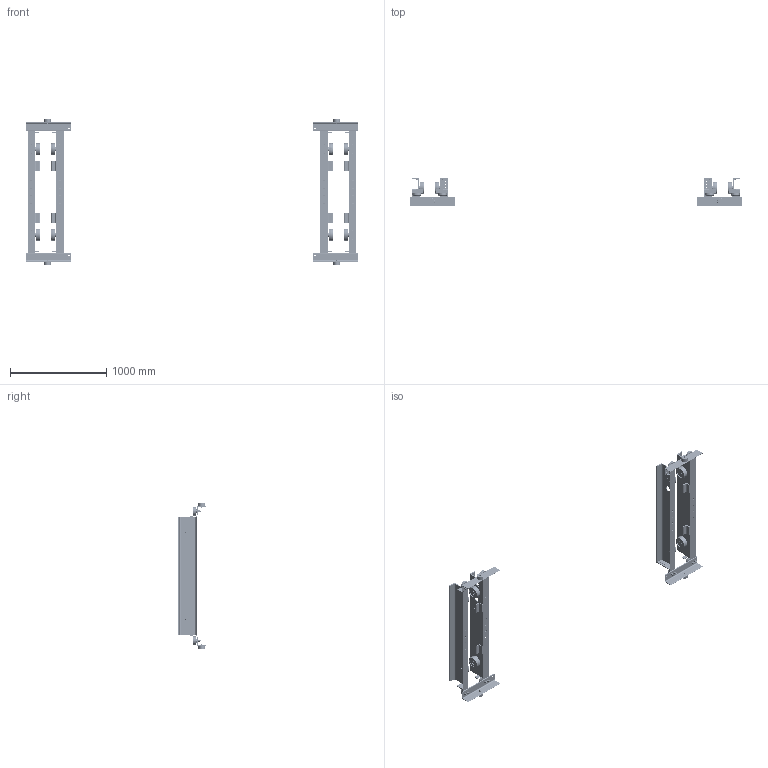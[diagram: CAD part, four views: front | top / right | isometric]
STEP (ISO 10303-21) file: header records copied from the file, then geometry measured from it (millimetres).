
FILE_DESCRIPTION (( 'STEP AP214' ), '1' );
FILE_NAME ('UP-3-0335.STEP', '2026-08-12T13:13:59', ( '' ), ( '' ), 'SwSTEP 2.0', 'SolidWorks 2026', '' );
FILE_SCHEMA (( 'AUTOMOTIVE_DESIGN' ));
Length unit declared in the file: inch
Products named in the file (42): 9012515_9012515; MC08-018.7_48; 9093433_9093433; 6232803_6232803; 9093101_9093101; 6233203; 62333XXU_6233302U; 9000507; 62329XXU_6232904U; 9000605; UP-3-0335; 6234702X_6.56" FLANGE; 9012514_9012514; 9047125_B27.7M - 3AM1-23; 9047135_9047135; 6257004; N6QO310E9108_N6QO3101108 DOMESTIC; 9047252_9047252; 9093424_9093424; 62334XXU_6233402U; 6232402; 9047262_B27.7M - 3BM1-62; 6234701X_6.56" FLANGE; 6232404; 5204405_5204405; 62328XXU_6232804U; 6234502; 6232302; 9093146_9093146; 62332XXU_6233202U; N6QL210207; 6232304; N6QO3101108_N6QO3101108; 6232602; 62330XXU_6233004U
Assembly tree (177 placements, depth 4):
  UP-3-0335
    62332XXU_6233202U
      62328XXU_6232804U
        MC08-018.7_48
        6232803_6232803
        6232803_6232803
      6232302  x2
      6232304  x2
      5204405_5204405  x2
      6233203  x2
      6257004
    62333XXU_6233302U  x2
      62329XXU_6232904U
        MC08-018.7_48
        6232803_6232803
        6232803_6232803
      6232302
      6232304
      5204405_5204405
      6233203
    62334XXU_6233402U
      62330XXU_6233004U
        MC08-018.7_48
        6232803_6232803
        6232803_6232803
      6232302  x2
      6232304  x2
      5204405_5204405  x2
      6233203  x2
      6257004
    6234701X_6.56" FLANGE  x2
    6234702X_6.56" FLANGE  x2
    6234502  x8
      6232602
      9000507
      9047262_B27.7M - 3BM1-62
    6232402  x8
    9047135_9047135  x8
    9093146_9093146  x8
    9012515_9012515  x16
    9093433_9093433  x32
    N6QO3101108_N6QO3101108  x8
      N6QO310E9108_N6QO3101108 DOMESTIC
      9047252_9047252
      9000605
    6232404  x8
    9047125_B27.7M - 3AM1-23  x8
    N6QL210207  x4
    9012514_9012514  x4
    9093101_9093101  x4
    9093424_9093424  x8
Bounding box: 3454.96 x 292.1 x 1525.81 mm (x, y, z)
Volume: 26680077.9 mm3; surface area: 5804408.4 mm2
Topology: 190 solids, 286 shells, 15068 faces, 39368 edges, 26064 vertices
Faces by surface type: plane 10076, cylinder 2560, bspline 1248, cone 1096, torus 88
Entity records: 61229 total; most frequent: CARTESIAN_POINT 18332, ORIENTED_EDGE 8814, DIRECTION 8091, EDGE_CURVE 4411, AXIS2_PLACEMENT_3D 2927, VERTEX_POINT 2922, LINE 2237, VECTOR 2237
